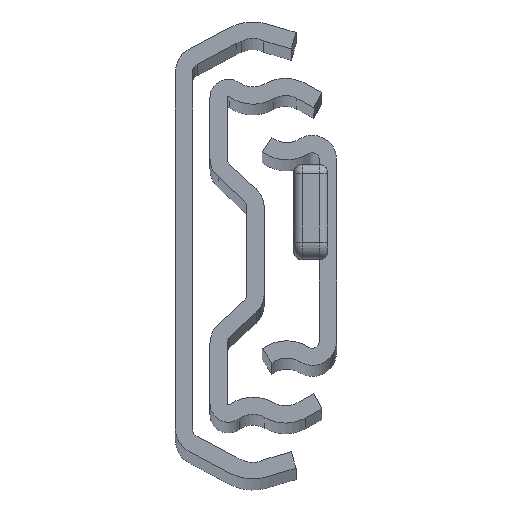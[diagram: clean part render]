
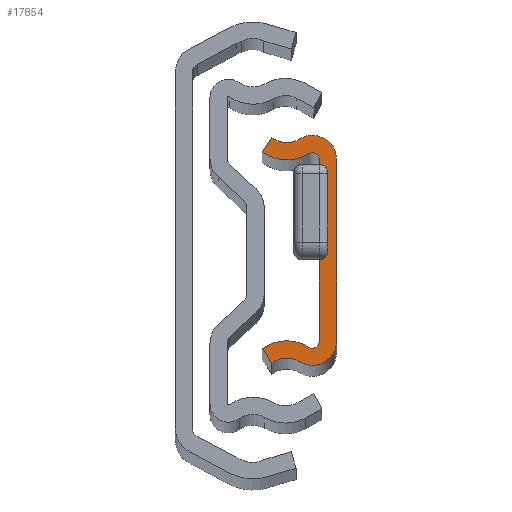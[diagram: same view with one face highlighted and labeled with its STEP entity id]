
A CAD part, top view. The second image highlights one B-rep face of the part: STEP entity #17854.
In plain terms, the highlighted planar face has unit normal (0, 0, 1).
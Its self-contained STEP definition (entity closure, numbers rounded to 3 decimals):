
#52 = LINE ( 'NONE', #9093, #8502 ) ;
#559 = CARTESIAN_POINT ( 'NONE',  ( 0.018, -12.922, 0. ) ) ;
#1104 = EDGE_CURVE ( 'NONE', #30958, #14796, #26017, .T. ) ;
#1301 = DIRECTION ( 'NONE',  ( 1., 0., 0. ) ) ;
#1623 = ORIENTED_EDGE ( 'NONE', *, *, #35722, .T. ) ;
#2199 = EDGE_CURVE ( 'NONE', #31464, #17047, #16599, .T. ) ;
#2579 = ORIENTED_EDGE ( 'NONE', *, *, #19645, .T. ) ;
#3589 = EDGE_CURVE ( 'NONE', #16927, #27595, #7106, .T. ) ;
#3664 = LINE ( 'NONE', #5902, #36679 ) ;
#3926 = AXIS2_PLACEMENT_3D ( 'NONE', #26098, #28600, #25717 ) ;
#4455 = CARTESIAN_POINT ( 'NONE',  ( 1.506, 10.55, 0. ) ) ;
#4957 = VERTEX_POINT ( 'NONE', #14853 ) ;
#5902 = CARTESIAN_POINT ( 'NONE',  ( -4.306, 11.422, 0. ) ) ;
#5915 = ORIENTED_EDGE ( 'NONE', *, *, #30394, .T. ) ;
#6695 = DIRECTION ( 'NONE',  ( 0., 0., 1. ) ) ;
#6898 = CARTESIAN_POINT ( 'NONE',  ( 1.081, 11.228, 0. ) ) ;
#7106 = CIRCLE ( 'NONE', #14240, 2.8 ) ;
#7340 = FACE_OUTER_BOUND ( 'NONE', #31130, .T. ) ;
#7813 = CARTESIAN_POINT ( 'NONE',  ( -4.306, -11.422, 0. ) ) ;
#8213 = EDGE_CURVE ( 'NONE', #27595, #15335, #19451, .T. ) ;
#8317 = PLANE ( 'NONE',  #20325 ) ;
#8502 = VECTOR ( 'NONE', #17223, 1000. ) ;
#8503 = LINE ( 'NONE', #15236, #28604 ) ;
#8563 = DIRECTION ( 'NONE',  ( 1., 0., 0. ) ) ;
#8810 = CARTESIAN_POINT ( 'NONE',  ( -1.47, -15.294, 0. ) ) ;
#9026 = ORIENTED_EDGE ( 'NONE', *, *, #12511, .T. ) ;
#9093 = CARTESIAN_POINT ( 'NONE',  ( 4.306, -10.55, 0. ) ) ;
#9191 = ORIENTED_EDGE ( 'NONE', *, *, #22824, .T. ) ;
#9555 = DIRECTION ( 'NONE',  ( -1., 0., 0. ) ) ;
#9806 = DIRECTION ( 'NONE',  ( -1., 0., 0. ) ) ;
#10073 = DIRECTION ( 'NONE',  ( 1., 0., 0. ) ) ;
#11033 = DIRECTION ( 'NONE',  ( 0., 0., -1. ) ) ;
#11115 = AXIS2_PLACEMENT_3D ( 'NONE', #24670, #35769, #10073 ) ;
#11541 = ORIENTED_EDGE ( 'NONE', *, *, #25867, .T. ) ;
#11758 = CARTESIAN_POINT ( 'NONE',  ( 1.081, -11.228, 0. ) ) ;
#12511 = EDGE_CURVE ( 'NONE', #31960, #16927, #52, .T. ) ;
#14065 = AXIS2_PLACEMENT_3D ( 'NONE', #21073, #15510, #1301 ) ;
#14185 = CARTESIAN_POINT ( 'NONE',  ( 2.306, 10.55, 0. ) ) ;
#14240 = AXIS2_PLACEMENT_3D ( 'NONE', #18053, #6695, #9555 ) ;
#14511 = DIRECTION ( 'NONE',  ( -0.555, -0.832, 0. ) ) ;
#14796 = VERTEX_POINT ( 'NONE', #6898 ) ;
#14853 = CARTESIAN_POINT ( 'NONE',  ( -3.194, -13.089, 0. ) ) ;
#15236 = CARTESIAN_POINT ( 'NONE',  ( 2.306, -10.55, 0. ) ) ;
#15289 = CARTESIAN_POINT ( 'NONE',  ( 2.306, -10.55, 0. ) ) ;
#15335 = VERTEX_POINT ( 'NONE', #26769 ) ;
#15434 = DIRECTION ( 'NONE',  ( 0., 0., -1. ) ) ;
#15510 = DIRECTION ( 'NONE',  ( 0., 0., -1. ) ) ;
#15519 = DIRECTION ( 'NONE',  ( 1., 0., 0. ) ) ;
#15602 = LINE ( 'NONE', #20791, #33453 ) ;
#15611 = CARTESIAN_POINT ( 'NONE',  ( 0.018, 12.922, 0. ) ) ;
#16599 = CIRCLE ( 'NONE', #35239, 0.8 ) ;
#16927 = VERTEX_POINT ( 'NONE', #25611 ) ;
#17047 = VERTEX_POINT ( 'NONE', #11758 ) ;
#17223 = DIRECTION ( 'NONE',  ( 0., 1., 0. ) ) ;
#17854 = ADVANCED_FACE ( 'Face2', ( #7340 ), #8317, .T. ) ;
#18053 = CARTESIAN_POINT ( 'NONE',  ( 1.506, 10.55, 0. ) ) ;
#18101 = DIRECTION ( 'NONE',  ( 0., -1., 0. ) ) ;
#18119 = CARTESIAN_POINT ( 'NONE',  ( 1.506, -10.55, 0. ) ) ;
#18653 = DIRECTION ( 'NONE',  ( -1., 0., 0. ) ) ;
#18906 = ORIENTED_EDGE ( 'NONE', *, *, #3589, .T. ) ;
#19451 = CIRCLE ( 'NONE', #29912, 2.8 ) ;
#19645 = EDGE_CURVE ( 'NONE', #17047, #31168, #24810, .T. ) ;
#19765 = VERTEX_POINT ( 'NONE', #559 ) ;
#20325 = AXIS2_PLACEMENT_3D ( 'NONE', #8810, #34537, #8563 ) ;
#20791 = CARTESIAN_POINT ( 'NONE',  ( -4.306, -11.422, 0. ) ) ;
#21073 = CARTESIAN_POINT ( 'NONE',  ( -1.47, -15.294, 0. ) ) ;
#21912 = EDGE_CURVE ( 'NONE', #14796, #34667, #22410, .T. ) ;
#22410 = CIRCLE ( 'NONE', #23914, 0.8 ) ;
#22824 = EDGE_CURVE ( 'NONE', #34667, #31464, #8503, .T. ) ;
#23133 = CARTESIAN_POINT ( 'NONE',  ( -4.306, 11.422, 0. ) ) ;
#23294 = ORIENTED_EDGE ( 'NONE', *, *, #21912, .T. ) ;
#23914 = AXIS2_PLACEMENT_3D ( 'NONE', #4455, #15434, #32783 ) ;
#24670 = CARTESIAN_POINT ( 'NONE',  ( 1.506, -10.55, 0. ) ) ;
#24810 = CIRCLE ( 'NONE', #3926, 4.8 ) ;
#25611 = CARTESIAN_POINT ( 'NONE',  ( 4.306, 10.55, 0. ) ) ;
#25717 = DIRECTION ( 'NONE',  ( 1., 0., 0. ) ) ;
#25867 = EDGE_CURVE ( 'NONE', #15335, #30958, #3664, .T. ) ;
#26017 = CIRCLE ( 'NONE', #32137, 4.8 ) ;
#26098 = CARTESIAN_POINT ( 'NONE',  ( -1.47, -15.294, 0. ) ) ;
#26188 = ORIENTED_EDGE ( 'NONE', *, *, #8213, .T. ) ;
#26769 = CARTESIAN_POINT ( 'NONE',  ( -3.194, 13.089, 0. ) ) ;
#27595 = VERTEX_POINT ( 'NONE', #15611 ) ;
#27969 = CIRCLE ( 'NONE', #11115, 2.8 ) ;
#28600 = DIRECTION ( 'NONE',  ( 0., 0., 1. ) ) ;
#28604 = VECTOR ( 'NONE', #18101, 1000. ) ;
#29912 = AXIS2_PLACEMENT_3D ( 'NONE', #30268, #11033, #18653 ) ;
#30268 = CARTESIAN_POINT ( 'NONE',  ( -1.47, 15.294, 0. ) ) ;
#30394 = EDGE_CURVE ( 'NONE', #31168, #4957, #15602, .T. ) ;
#30640 = CIRCLE ( 'NONE', #14065, 2.8 ) ;
#30958 = VERTEX_POINT ( 'NONE', #23133 ) ;
#31130 = EDGE_LOOP ( 'NONE', ( #1623, #31138, #9026, #18906, #26188, #11541, #36371, #23294, #9191, #33131, #2579, #5915 ) ) ;
#31138 = ORIENTED_EDGE ( 'NONE', *, *, #32677, .T. ) ;
#31168 = VERTEX_POINT ( 'NONE', #7813 ) ;
#31464 = VERTEX_POINT ( 'NONE', #15289 ) ;
#31960 = VERTEX_POINT ( 'NONE', #35319 ) ;
#32137 = AXIS2_PLACEMENT_3D ( 'NONE', #35624, #32543, #9806 ) ;
#32543 = DIRECTION ( 'NONE',  ( 0., 0., 1. ) ) ;
#32619 = DIRECTION ( 'NONE',  ( 0., 0., -1. ) ) ;
#32677 = EDGE_CURVE ( 'NONE', #19765, #31960, #27969, .T. ) ;
#32783 = DIRECTION ( 'NONE',  ( -1., 0., 0. ) ) ;
#33131 = ORIENTED_EDGE ( 'NONE', *, *, #2199, .T. ) ;
#33453 = VECTOR ( 'NONE', #35158, 1000. ) ;
#34537 = DIRECTION ( 'NONE',  ( 0., 0., 1. ) ) ;
#34667 = VERTEX_POINT ( 'NONE', #14185 ) ;
#35158 = DIRECTION ( 'NONE',  ( 0.555, -0.832, 0. ) ) ;
#35239 = AXIS2_PLACEMENT_3D ( 'NONE', #18119, #32619, #15519 ) ;
#35319 = CARTESIAN_POINT ( 'NONE',  ( 4.306, -10.55, 0. ) ) ;
#35624 = CARTESIAN_POINT ( 'NONE',  ( -1.47, 15.294, 0. ) ) ;
#35722 = EDGE_CURVE ( 'NONE', #4957, #19765, #30640, .T. ) ;
#35769 = DIRECTION ( 'NONE',  ( 0., 0., 1. ) ) ;
#36371 = ORIENTED_EDGE ( 'NONE', *, *, #1104, .T. ) ;
#36679 = VECTOR ( 'NONE', #14511, 1000. ) ;
